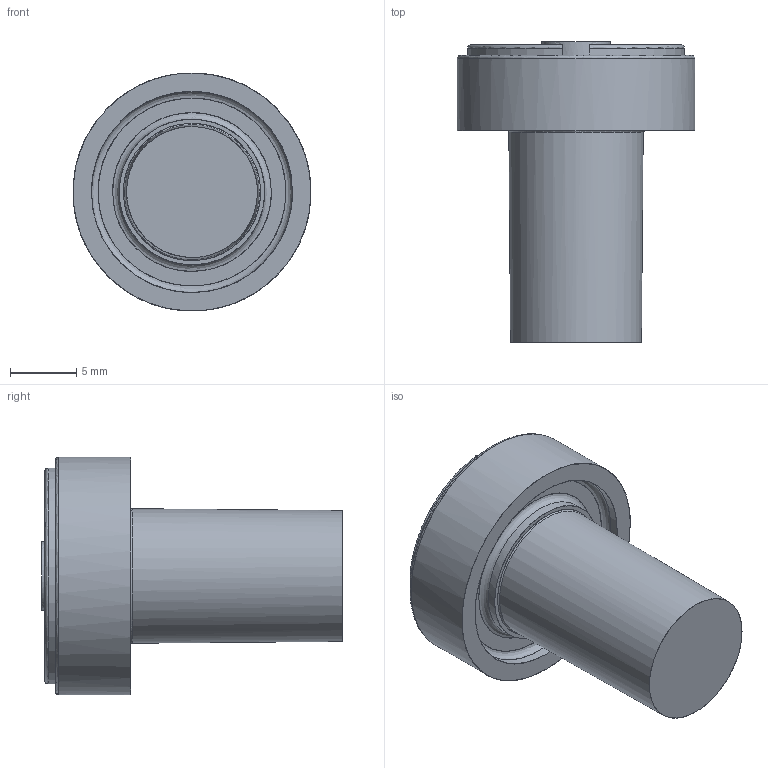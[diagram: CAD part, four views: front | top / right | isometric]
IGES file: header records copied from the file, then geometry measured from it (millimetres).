
Global section: file name: P:\dflow\CDP02004_Ultraljudsgivare\CDP02004_Ultraljudsgivare_130531.igs; native system: NX V8.0; preprocessor: SIEMENS PLM Software NX 8.0; date: 20130531.080456; units: millimetre
Bounding box: 18 x 22.75 x 18 mm (x, y, z)
Surface area: 1466.8 mm2 (no closed solid volume)
Topology: 0 solids, 0 shells, 25 faces, 187 edges, 171 vertices
Faces by surface type: bspline 25
